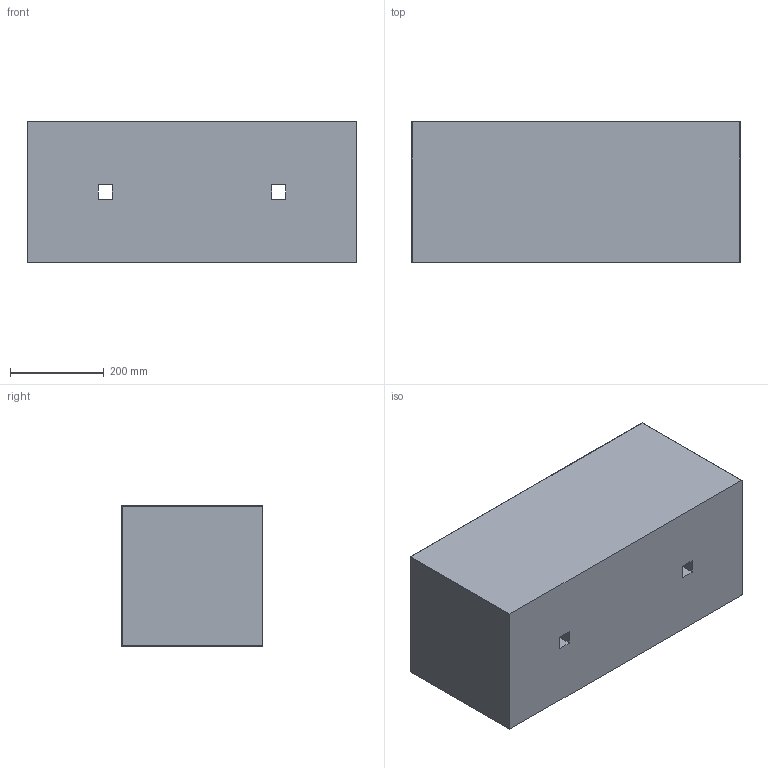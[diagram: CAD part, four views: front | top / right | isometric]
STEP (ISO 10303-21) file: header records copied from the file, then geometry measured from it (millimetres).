
FILE_DESCRIPTION(/* description */ (''),/* implementation_level */ '2;1');
FILE_NAME(/* name */ 'C:\Mac\Home\Desktop\btnv\inventor\basso703030\donica betonowa Basso 70x30x30cm.stp',/* time_stamp */ '2025-11-10T21:21:40+01:00',/* author */ ('dwasik'),/* organization */ (''),/* preprocessor_version */ 'ST-DEVELOPER v15.6',/* originating_system */ 'Autodesk Inventor 2015',/* authorisation */ '');
FILE_SCHEMA (('AUTOMOTIVE_DESIGN { 1 0 10303 214 3 1 1 }'));
Length unit declared in the file: millimetre
Products named in the file (1): Part1
Bounding box: 700 x 300 x 300 mm (x, y, z)
Volume: 21473313.9 mm3; surface area: 1497425.1 mm2
Topology: 1 solids, 1 shells, 31 faces, 72 edges, 44 vertices
Faces by surface type: plane 19, cylinder 8, sphere 4
Entity records: 898 total; most frequent: DIRECTION 152, CARTESIAN_POINT 148, ORIENTED_EDGE 144, EDGE_CURVE 72, LINE 56, VECTOR 56, AXIS2_PLACEMENT_3D 48, VERTEX_POINT 44
